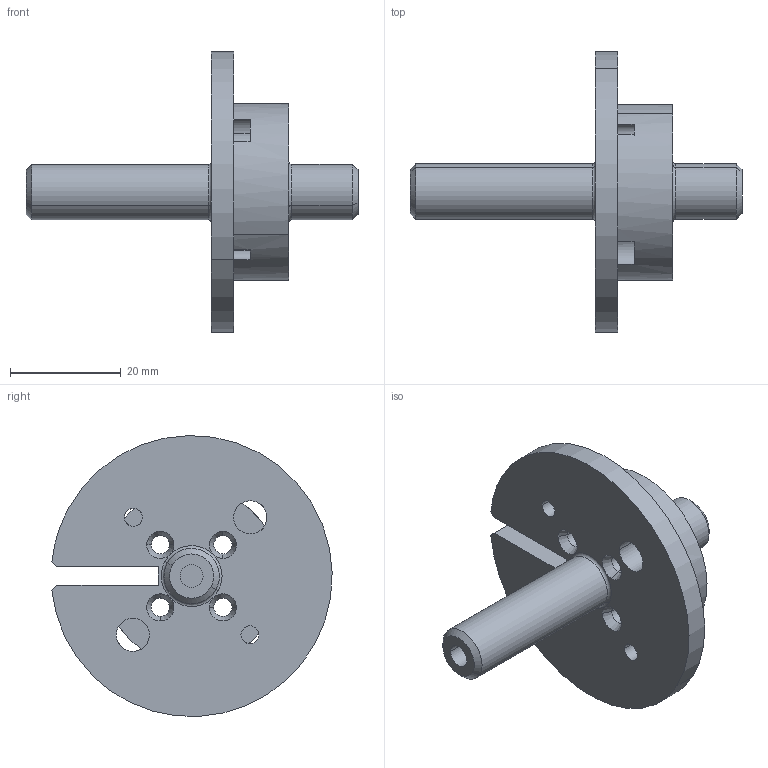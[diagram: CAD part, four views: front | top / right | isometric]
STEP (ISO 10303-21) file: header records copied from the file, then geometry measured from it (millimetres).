
FILE_DESCRIPTION(('CATIA V5 STEP Exchange','CAx-IF Rec.Pracs.--- Model Styling and Organization---1.4--- 2014-01-23','CAx-IF Rec.Pracs.---3D Tessellated Data Validation Properties---0.5---2014-09-14'),'2;1');
FILE_NAME('D:\GrabCAD\I+D\SERIE_LEXA\EKOT-1360-170921A-LEXA_WAIST_SUPPORT\FAB\FAB_C\PDF\MAQUINADO\1360.000.003.000.FLECHA.stp','2024-10-31T23:43:56+00:00',('none'),('none'),'CATIA Version 5-6 Release 2018 SP6','CATIA V5 STEP AP242','none');
FILE_SCHEMA(('AP242_MANAGED_MODEL_BASED_3D_ENGINEERING_MIM_LF {1 0 10303 442 1 1 4}'));
Length unit declared in the file: millimetre
Products named in the file (1): 1360.000.003.000.FLECHA
Bounding box: 60 x 50.66 x 50.75 mm (x, y, z)
Volume: 17948.9 mm3; surface area: 8224.6 mm2
Topology: 1 solids, 1 shells, 63 faces, 170 edges, 108 vertices
Faces by surface type: cylinder 28, plane 19, cone 12, torus 4
Entity records: 1964 total; most frequent: ORIENTED_EDGE 340, CARTESIAN_POINT 330, DIRECTION 254, EDGE_CURVE 170, AXIS2_PLACEMENT_3D 137, VERTEX_POINT 108, CIRCLE 92, EDGE_LOOP 78
